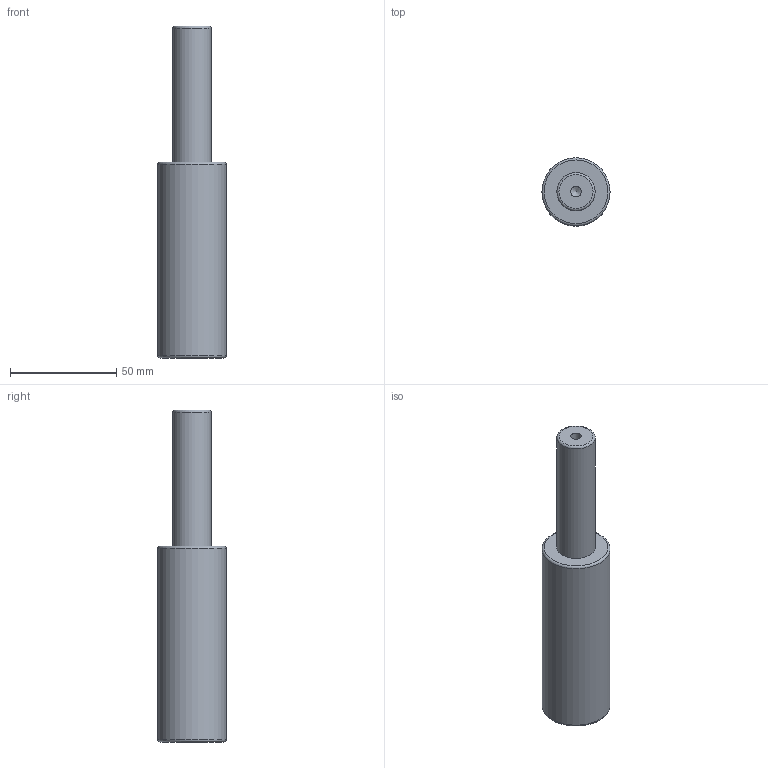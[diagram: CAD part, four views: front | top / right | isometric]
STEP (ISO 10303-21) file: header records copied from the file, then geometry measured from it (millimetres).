
FILE_DESCRIPTION(/* description */ (''),/* implementation_level */ '2;1');
FILE_NAME(/* name */ 'NV5-SMLX.32x63.stp',/* time_stamp */ '2018-08-31T16:08:36+02:00',/* author */ (''),/* organization */ (''),/* preprocessor_version */ 'ST-DEVELOPER v16',/* originating_system */ 'SIEMENS PLM Software NX 10.0',/* authorisation */ '');
FILE_SCHEMA (('AUTOMOTIVE_DESIGN { 1 0 10303 214 3 1 1 1 }'));
Length unit declared in the file: millimetre
Products named in the file (1): NV5-SMLX.32x63
Bounding box: 32 x 32 x 156 mm (x, y, z)
Volume: 89770.8 mm3; surface area: 14716.7 mm2
Topology: 1 solids, 1 shells, 12 faces, 24 edges, 15 vertices
Faces by surface type: cylinder 4, torus 3, plane 3, cone 2
Full cylindrical faces by diameter (mm): 5 x2, 18 x1, 32 x1
Entity records: 266 total; most frequent: DIRECTION 48, CARTESIAN_POINT 37, FACE_BOUND 24, AXIS2_PLACEMENT_3D 24, EDGE_LOOP 22, ORIENTED_EDGE 22, VERTEX_POINT 13, ADVANCED_FACE 12
